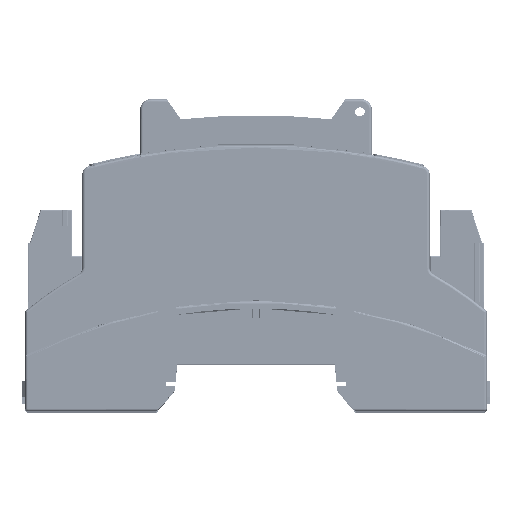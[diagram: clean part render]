
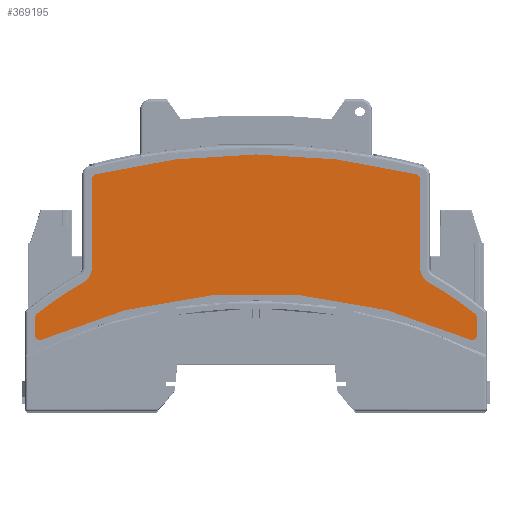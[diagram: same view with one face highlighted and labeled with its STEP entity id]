
A CAD part, top view. The second image highlights one B-rep face of the part: STEP entity #369195.
In plain terms, the highlighted planar face has unit normal (0, 0, 1).
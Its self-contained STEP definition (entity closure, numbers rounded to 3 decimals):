
#6417=CIRCLE('',#388585,1.);
#6418=CIRCLE('',#388586,1.);
#6419=CIRCLE('',#388587,100.846);
#6420=CIRCLE('',#388588,1.);
#6421=CIRCLE('',#388589,1.);
#6422=CIRCLE('',#388590,68.154);
#6423=CIRCLE('',#388591,3.346);
#6424=CIRCLE('',#388592,1.);
#6425=CIRCLE('',#388593,127.854);
#6426=CIRCLE('',#388594,1.);
#6427=CIRCLE('',#388595,3.346);
#6428=CIRCLE('',#388596,68.154);
#11481=FACE_OUTER_BOUND('',#29985,.T.);
#29985=EDGE_LOOP('',(#232585,#232586,#232587,#232588,#232589,#232590,#232591,
#232592,#232593,#232594,#232595,#232596,#232597,#232598,#232599,#232600));
#49584=LINE('',#520124,#95501);
#49585=LINE('',#520132,#95502);
#49586=LINE('',#520140,#95503);
#49587=LINE('',#520148,#95504);
#95501=VECTOR('',#414710,10.);
#95502=VECTOR('',#414717,10.);
#95503=VECTOR('',#414724,10.);
#95504=VECTOR('',#414731,10.);
#142261=VERTEX_POINT('',#520120);
#142262=VERTEX_POINT('',#520121);
#142263=VERTEX_POINT('',#520123);
#142264=VERTEX_POINT('',#520125);
#142265=VERTEX_POINT('',#520127);
#142266=VERTEX_POINT('',#520129);
#142267=VERTEX_POINT('',#520131);
#142268=VERTEX_POINT('',#520133);
#142269=VERTEX_POINT('',#520135);
#142270=VERTEX_POINT('',#520137);
#142271=VERTEX_POINT('',#520139);
#142272=VERTEX_POINT('',#520141);
#142273=VERTEX_POINT('',#520143);
#142274=VERTEX_POINT('',#520145);
#142275=VERTEX_POINT('',#520147);
#142276=VERTEX_POINT('',#520149);
#177795=EDGE_CURVE('',#142261,#142262,#6417,.T.);
#177796=EDGE_CURVE('',#142263,#142261,#49584,.T.);
#177797=EDGE_CURVE('',#142264,#142263,#6418,.T.);
#177798=EDGE_CURVE('',#142265,#142264,#6419,.T.);
#177799=EDGE_CURVE('',#142266,#142265,#6420,.T.);
#177800=EDGE_CURVE('',#142267,#142266,#49585,.T.);
#177801=EDGE_CURVE('',#142268,#142267,#6421,.T.);
#177802=EDGE_CURVE('',#142269,#142268,#6422,.T.);
#177803=EDGE_CURVE('',#142270,#142269,#6423,.T.);
#177804=EDGE_CURVE('',#142271,#142270,#49586,.T.);
#177805=EDGE_CURVE('',#142272,#142271,#6424,.T.);
#177806=EDGE_CURVE('',#142273,#142272,#6425,.T.);
#177807=EDGE_CURVE('',#142274,#142273,#6426,.T.);
#177808=EDGE_CURVE('',#142275,#142274,#49587,.T.);
#177809=EDGE_CURVE('',#142276,#142275,#6427,.T.);
#177810=EDGE_CURVE('',#142262,#142276,#6428,.T.);
#232585=ORIENTED_EDGE('',*,*,#177795,.F.);
#232586=ORIENTED_EDGE('',*,*,#177796,.F.);
#232587=ORIENTED_EDGE('',*,*,#177797,.F.);
#232588=ORIENTED_EDGE('',*,*,#177798,.F.);
#232589=ORIENTED_EDGE('',*,*,#177799,.F.);
#232590=ORIENTED_EDGE('',*,*,#177800,.F.);
#232591=ORIENTED_EDGE('',*,*,#177801,.F.);
#232592=ORIENTED_EDGE('',*,*,#177802,.F.);
#232593=ORIENTED_EDGE('',*,*,#177803,.F.);
#232594=ORIENTED_EDGE('',*,*,#177804,.F.);
#232595=ORIENTED_EDGE('',*,*,#177805,.F.);
#232596=ORIENTED_EDGE('',*,*,#177806,.F.);
#232597=ORIENTED_EDGE('',*,*,#177807,.F.);
#232598=ORIENTED_EDGE('',*,*,#177808,.F.);
#232599=ORIENTED_EDGE('',*,*,#177809,.F.);
#232600=ORIENTED_EDGE('',*,*,#177810,.F.);
#334459=PLANE('',#388584);
#369195=ADVANCED_FACE('',(#11481),#334459,.F.);
#388584=AXIS2_PLACEMENT_3D('',#520119,#414706,#414707);
#388585=AXIS2_PLACEMENT_3D('',#520122,#414708,#414709);
#388586=AXIS2_PLACEMENT_3D('',#520126,#414711,#414712);
#388587=AXIS2_PLACEMENT_3D('',#520128,#414713,#414714);
#388588=AXIS2_PLACEMENT_3D('',#520130,#414715,#414716);
#388589=AXIS2_PLACEMENT_3D('',#520134,#414718,#414719);
#388590=AXIS2_PLACEMENT_3D('',#520136,#414720,#414721);
#388591=AXIS2_PLACEMENT_3D('',#520138,#414722,#414723);
#388592=AXIS2_PLACEMENT_3D('',#520142,#414725,#414726);
#388593=AXIS2_PLACEMENT_3D('',#520144,#414727,#414728);
#388594=AXIS2_PLACEMENT_3D('',#520146,#414729,#414730);
#388595=AXIS2_PLACEMENT_3D('',#520150,#414732,#414733);
#388596=AXIS2_PLACEMENT_3D('',#520151,#414734,#414735);
#414706=DIRECTION('center_axis',(0.,0.,
-1.));
#414707=DIRECTION('ref_axis',(1.,0.,0.));
#414708=DIRECTION('center_axis',(0.,0.,
-1.));
#414709=DIRECTION('ref_axis',(-0.902,0.433,0.));
#414710=DIRECTION('',(0.,1.,0.));
#414711=DIRECTION('center_axis',(0.,0.,
-1.));
#414712=DIRECTION('ref_axis',(-0.542,-0.84,0.));
#414713=DIRECTION('center_axis',(0.,0.,
1.));
#414714=DIRECTION('ref_axis',(0.426,-0.905,0.));
#414715=DIRECTION('center_axis',(0.,0.,
-1.));
#414716=DIRECTION('ref_axis',(0.542,-0.84,0.));
#414717=DIRECTION('',(0.,-1.,0.));
#414718=DIRECTION('center_axis',(0.,0.,
-1.));
#414719=DIRECTION('ref_axis',(0.902,0.433,0.));
#414720=DIRECTION('center_axis',(0.,0.,
-1.));
#414721=DIRECTION('ref_axis',(0.493,0.87,0.));
#414722=DIRECTION('center_axis',(0.,0.,
1.));
#414723=DIRECTION('ref_axis',(0.493,0.87,0.));
#414724=DIRECTION('',(0.,-1.,0.));
#414725=DIRECTION('center_axis',(0.,0.,
-1.));
#414726=DIRECTION('ref_axis',(0.789,0.615,0.));
#414727=DIRECTION('center_axis',(0.,0.,
-1.));
#414728=DIRECTION('ref_axis',(-0.25,0.968,0.));
#414729=DIRECTION('center_axis',(0.,0.,
-1.));
#414730=DIRECTION('ref_axis',(-0.789,0.615,0.));
#414731=DIRECTION('',(0.,1.,0.));
#414732=DIRECTION('center_axis',(0.,0.,
1.));
#414733=DIRECTION('ref_axis',(-1.,0.,0.));
#414734=DIRECTION('center_axis',(0.,0.,
-1.));
#414735=DIRECTION('ref_axis',(-0.631,0.776,0.));
#520119=CARTESIAN_POINT('Origin',(1.,31.1,162.1));
#520120=CARTESIAN_POINT('',(-43.004,12.146,162.1));
#520121=CARTESIAN_POINT('',(-42.629,12.926,162.1));
#520122=CARTESIAN_POINT('Origin',(-42.004,12.146,162.1));
#520123=CARTESIAN_POINT('',(-43.004,8.881,162.1));
#520124=CARTESIAN_POINT('',(-43.004,19.209,162.1));
#520125=CARTESIAN_POINT('',(-41.591,7.97,162.1));
#520126=CARTESIAN_POINT('Origin',(-42.004,8.881,162.1));
#520127=CARTESIAN_POINT('',(41.591,7.97,162.1));
#520128=CARTESIAN_POINT('Origin',(0.,-83.9,
162.1));
#520129=CARTESIAN_POINT('',(43.004,8.881,162.1));
#520130=CARTESIAN_POINT('Origin',(42.004,8.881,162.1));
#520131=CARTESIAN_POINT('',(43.004,12.146,162.1));
#520132=CARTESIAN_POINT('',(43.004,21.862,162.1));
#520133=CARTESIAN_POINT('',(42.629,12.926,162.1));
#520134=CARTESIAN_POINT('Origin',(42.004,12.146,162.1));
#520135=CARTESIAN_POINT('',(33.6,19.045,162.1));
#520136=CARTESIAN_POINT('Origin',(0.,-40.25,
162.1));
#520137=CARTESIAN_POINT('',(31.904,21.957,162.1));
#520138=CARTESIAN_POINT('Origin',(35.25,21.957,162.1));
#520139=CARTESIAN_POINT('',(31.904,39.132,162.1));
#520140=CARTESIAN_POINT('',(31.904,35.505,162.1));
#520141=CARTESIAN_POINT('',(31.147,40.102,162.1));
#520142=CARTESIAN_POINT('Origin',(30.904,39.132,162.1));
#520143=CARTESIAN_POINT('',(-31.147,40.102,162.1));
#520144=CARTESIAN_POINT('Origin',(0.,-83.9,
162.1));
#520145=CARTESIAN_POINT('',(-31.904,39.132,162.1));
#520146=CARTESIAN_POINT('Origin',(-30.904,39.132,162.1));
#520147=CARTESIAN_POINT('',(-31.904,21.957,162.1));
#520148=CARTESIAN_POINT('',(-31.904,26.528,162.1));
#520149=CARTESIAN_POINT('',(-33.6,19.045,162.1));
#520150=CARTESIAN_POINT('Origin',(-35.25,21.957,162.1));
#520151=CARTESIAN_POINT('Origin',(0.,-40.25,
162.1));
